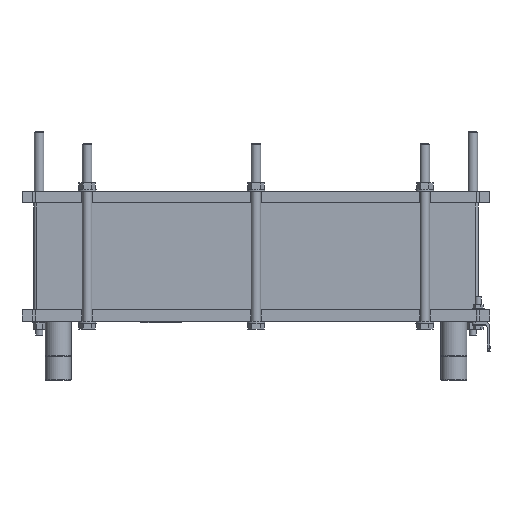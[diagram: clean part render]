
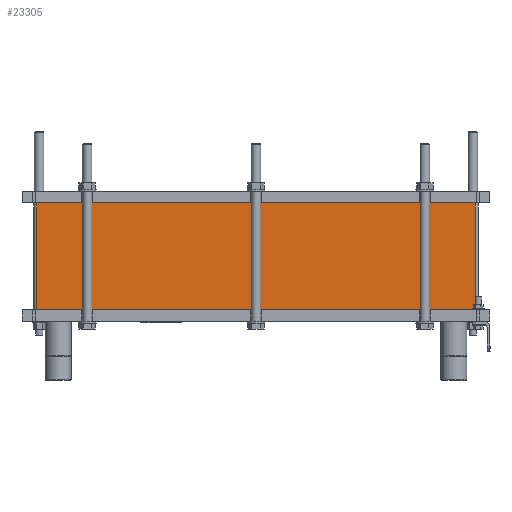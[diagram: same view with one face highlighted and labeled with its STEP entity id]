
A CAD part, left-side view. The second image highlights one B-rep face of the part: STEP entity #23305.
In plain terms, the highlighted planar face has unit normal (-1, 0, 0).
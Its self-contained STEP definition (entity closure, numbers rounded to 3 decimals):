
#15365=CARTESIAN_POINT('',(-62.5,-370.0,20.0));
#15366=VERTEX_POINT('',#15365);
#15374=CARTESIAN_POINT('',(-62.5,370.0,20.0));
#15375=VERTEX_POINT('',#15374);
#15376=CARTESIAN_POINT('',(-62.5,-370.0,20.0));
#15377=DIRECTION('',(0.0,1.0,0.0));
#15378=VECTOR('',#15377,740.0);
#15379=LINE('',#15376,#15378);
#15380=EDGE_CURVE('',#15366,#15375,#15379,.T.);
#22949=CARTESIAN_POINT('',(-62.5,370.0,200.0));
#22950=VERTEX_POINT('',#22949);
#22958=CARTESIAN_POINT('',(-62.5,-370.0,200.0));
#22959=VERTEX_POINT('',#22958);
#22960=CARTESIAN_POINT('',(-62.5,-370.0,200.0));
#22961=DIRECTION('',(0.0,1.0,0.0));
#22962=VECTOR('',#22961,740.0);
#22963=LINE('',#22960,#22962);
#22964=EDGE_CURVE('',#22959,#22950,#22963,.T.);
#23278=CARTESIAN_POINT('',(-62.5,-370.0,20.0));
#23279=DIRECTION('',(0.0,0.0,1.0));
#23280=VECTOR('',#23279,180.0);
#23281=LINE('',#23278,#23280);
#23282=EDGE_CURVE('',#15366,#22959,#23281,.T.);
#23289=CARTESIAN_POINT('',(-62.5,-370.0,20.0));
#23290=DIRECTION('',(-1.0,0.0,0.0));
#23291=DIRECTION('',(0.0,0.0,1.0));
#23292=AXIS2_PLACEMENT_3D('',#23289,#23290,#23291);
#23293=PLANE('',#23292);
#23294=ORIENTED_EDGE('',*,*,#22964,.T.);
#23295=CARTESIAN_POINT('',(-62.5,370.0,20.0));
#23296=DIRECTION('',(0.0,0.0,1.0));
#23297=VECTOR('',#23296,180.0);
#23298=LINE('',#23295,#23297);
#23299=EDGE_CURVE('',#15375,#22950,#23298,.T.);
#23300=ORIENTED_EDGE('',*,*,#23299,.F.);
#23301=ORIENTED_EDGE('',*,*,#15380,.F.);
#23302=ORIENTED_EDGE('',*,*,#23282,.T.);
#23303=EDGE_LOOP('',(#23294,#23300,#23301,#23302));
#23304=FACE_OUTER_BOUND('',#23303,.T.);
#23305=ADVANCED_FACE('',(#23304),#23293,.T.);
